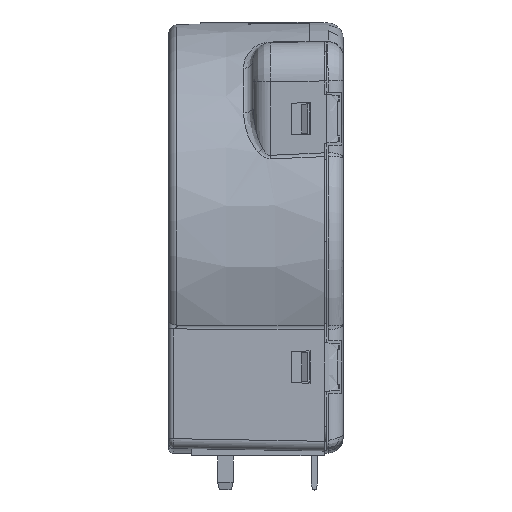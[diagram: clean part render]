
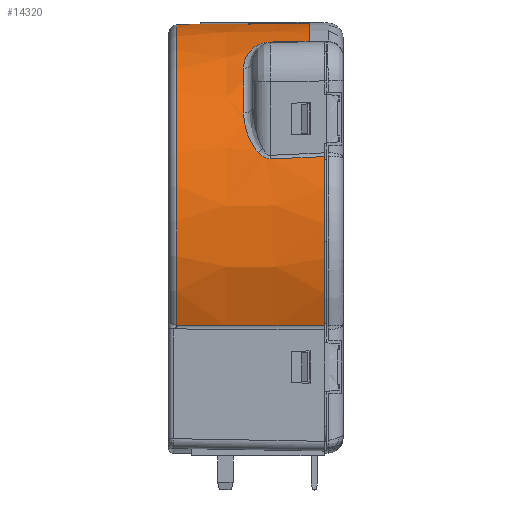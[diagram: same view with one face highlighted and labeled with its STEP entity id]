
A CAD part, left-side view. The second image highlights one B-rep face of the part: STEP entity #14320.
In plain terms, the highlighted conical face has half-angle 1 degrees and reference radius 22.509 mm.
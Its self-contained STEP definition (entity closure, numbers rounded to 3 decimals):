
#6770=CARTESIAN_POINT('',(-7.04,-7.92,
21.631));
#6780=VERTEX_POINT('',#6770);
#6810=CARTESIAN_POINT('',(1.649,-7.92,
0.876));
#6820=DIRECTION('',(0.,1.,0.));
#6830=DIRECTION('',(-1.,0.,0.));
#6840=AXIS2_PLACEMENT_3D('',#6810,#6820,#6830);
#6850=CIRCLE('',#6840,22.5);
#6860=CARTESIAN_POINT('',(10.325,-7.92,
21.635));
#6870=VERTEX_POINT('',#6860);
#6880=EDGE_CURVE('',#6780,#6870,#6850,.T.);
#10560=CARTESIAN_POINT('',(22.16,-6.37,
10.058));
#10570=VERTEX_POINT('',#10560);
#10600=CARTESIAN_POINT('',(1.649,-6.37,
0.876));
#10610=DIRECTION('',(0.,-1.,0.));
#10620=DIRECTION('',(-1.,0.,0.));
#10630=AXIS2_PLACEMENT_3D('',#10600,#10610,#10620);
#10640=CIRCLE('',#10630,22.473);
#10650=CARTESIAN_POINT('',(24.001,-6.37,
3.205));
#10660=VERTEX_POINT('',#10650);
#10670=EDGE_CURVE('',#10660,#10570,#10640,.T.);
#12060=CARTESIAN_POINT('',(23.96,-3.048,
3.026));
#12070=VERTEX_POINT('',#12060);
#12320=CARTESIAN_POINT('',(23.96,-3.048,
3.031));
#12330=VERTEX_POINT('',#12320);
#12360=CARTESIAN_POINT('',(23.96,-3.048,
3.031));
#12370=DIRECTION('',(0.096,0.006,
-0.995));
#12380=VECTOR('',#12370,1.);
#12390=LINE('',#12360,#12380);
#12400=EDGE_CURVE('',#12330,#12070,#12390,.T.);
#12810=CARTESIAN_POINT('',(23.924,-0.17,
2.875));
#12820=CARTESIAN_POINT('',(23.955,1.479,
2.209));
#12830=CARTESIAN_POINT('',(23.956,3.129,
1.542));
#12840=CARTESIAN_POINT('',(23.927,4.779,
0.876));
#12850=B_SPLINE_CURVE_WITH_KNOTS('',3,(#12810,#12820,#12830,#12840),
.UNSPECIFIED.,.F.,.F.,(4,4),(0.,5.338),.UNSPECIFIED.);
#12860=CARTESIAN_POINT('',(23.924,-0.17,
2.875));
#12870=VERTEX_POINT('',#12860);
#12880=CARTESIAN_POINT('',(23.927,4.779,
0.876));
#12890=VERTEX_POINT('',#12880);
#12900=EDGE_CURVE('',#12870,#12890,#12850,.T.);
#13210=CARTESIAN_POINT('',(23.96,-3.048,
3.026));
#13220=DIRECTION('',(-0.013,0.999,
-0.052));
#13230=VECTOR('',#13220,1.);
#13240=LINE('',#13210,#13230);
#13250=EDGE_CURVE('',#12070,#12870,#13240,.T.);
#13320=CARTESIAN_POINT('',(1.649,-8.42,
0.876));
#13330=DIRECTION('',(0.,-1.,0.));
#13340=DIRECTION('',(-1.,0.,0.));
#13350=AXIS2_PLACEMENT_3D('',#13320,#13330,#13340);
#13360=CONICAL_SURFACE('',#13350,22.509,0.017);
#13370=ORIENTED_EDGE('',*,*,#10670,.F.);
#13380=CARTESIAN_POINT('',(22.091,-2.389,
10.042));
#13390=DIRECTION('',(0.017,-1.,
0.004));
#13400=VECTOR('',#13390,1.);
#13410=LINE('',#13380,#13400);
#13420=CARTESIAN_POINT('',(22.091,-2.389,
10.042));
#13430=VERTEX_POINT('',#13420);
#13440=EDGE_CURVE('',#13430,#10570,#13410,.T.);
#13450=ORIENTED_EDGE('',*,*,#13440,.T.);
#13460=CARTESIAN_POINT('',(22.091,-2.389,
10.042));
#13470=CARTESIAN_POINT('',(22.087,-2.176,
10.041));
#13480=CARTESIAN_POINT('',(22.029,-1.751,
10.153));
#13490=CARTESIAN_POINT('',(21.806,-1.117,
10.609));
#13500=CARTESIAN_POINT('',(21.337,-0.403,
11.523));
#13510=CARTESIAN_POINT('',(20.54,0.184,
12.885));
#13520=CARTESIAN_POINT('',(19.803,0.363,
13.937));
#13530=CARTESIAN_POINT('',(19.409,0.363,
14.452));
#13540=B_SPLINE_CURVE_WITH_KNOTS('',3,(#13460,#13470,#13480,#13490,
#13500,#13510,#13520,#13530),.UNSPECIFIED.,.F.,.F.,(4,1,1,1,1,4),(0.,
0.087,0.179,0.366,0.682,
1.),.UNSPECIFIED.);
#13550=CARTESIAN_POINT('',(19.409,0.363,
14.452));
#13560=VERTEX_POINT('',#13550);
#13570=EDGE_CURVE('',#13430,#13560,#13540,.T.);
#13580=ORIENTED_EDGE('',*,*,#13570,.F.);
#13590=CARTESIAN_POINT('',(1.649,0.363,
0.876));
#13600=DIRECTION('',(0.,1.,0.));
#13610=DIRECTION('',(1.,-0.,0.));
#13620=AXIS2_PLACEMENT_3D('',#13590,#13600,#13610);
#13630=CIRCLE('',#13620,22.355);
#13640=CARTESIAN_POINT('',(14.806,0.363,
18.95));
#13650=VERTEX_POINT('',#13640);
#13660=EDGE_CURVE('',#13650,#13560,#13630,.T.);
#13670=ORIENTED_EDGE('',*,*,#13660,.T.);
#13680=CARTESIAN_POINT('',(14.806,0.363,
18.95));
#13690=CARTESIAN_POINT('',(14.13,0.363,
19.441));
#13700=CARTESIAN_POINT('',(13.065,0.157,
20.13));
#13710=CARTESIAN_POINT('',(11.679,-0.446,
20.881));
#13720=CARTESIAN_POINT('',(11.011,-0.888,
21.203));
#13730=CARTESIAN_POINT('',(10.715,-1.168,
21.339));
#13740=B_SPLINE_CURVE_WITH_KNOTS('',3,(#13680,#13690,#13700,#13710,
#13720,#13730),.UNSPECIFIED.,.F.,.F.,(4,1,1,4),(0.,0.496,
0.745,1.),.UNSPECIFIED.);
#13750=CARTESIAN_POINT('',(10.715,-1.168,
21.339));
#13760=VERTEX_POINT('',#13750);
#13770=EDGE_CURVE('',#13650,#13760,#13740,.T.);
#13780=ORIENTED_EDGE('',*,*,#13770,.F.);
#13790=CARTESIAN_POINT('',(10.715,-1.168,
21.339));
#13800=CARTESIAN_POINT('',(10.551,-1.323,
21.415));
#13810=CARTESIAN_POINT('',(10.317,-1.591,
21.52));
#13820=CARTESIAN_POINT('',(10.112,-2.041,
21.613));
#13830=CARTESIAN_POINT('',(10.078,-2.305,
21.631));
#13840=CARTESIAN_POINT('',(10.084,-2.437,
21.632));
#13850=B_SPLINE_CURVE_WITH_KNOTS('',3,(#13790,#13800,#13810,#13820,
#13830,#13840),.UNSPECIFIED.,.F.,.F.,(4,1,1,4),(0.,0.478,
0.733,1.),.UNSPECIFIED.);
#13860=CARTESIAN_POINT('',(10.084,-2.437,
21.632));
#13870=VERTEX_POINT('',#13860);
#13880=EDGE_CURVE('',#13760,#13870,#13850,.T.);
#13890=ORIENTED_EDGE('',*,*,#13880,.F.);
#13900=CARTESIAN_POINT('',(10.084,-2.437,
21.632));
#13910=DIRECTION('',(0.044,-0.999,
0.001));
#13920=VECTOR('',#13910,1.);
#13930=LINE('',#13900,#13920);
#13940=EDGE_CURVE('',#13870,#6870,#13930,.T.);
#13950=ORIENTED_EDGE('',*,*,#13940,.F.);
#13960=ORIENTED_EDGE('',*,*,#6880,.T.);
#13970=CARTESIAN_POINT('',(658438.791,-1749.46,
37819.373));
#13980=DIRECTION('',(-0.057,0.018,
0.998));
#13990=DIRECTION('',(0.998,0.,
0.057));
#14000=AXIS2_PLACEMENT_3D('',#13970,#13980,#13990);
#14010=CIRCLE('',#14000,659532.117);
#14020=CARTESIAN_POINT('',(-6.984,7.23,
21.367));
#14030=VERTEX_POINT('',#14020);
#14040=EDGE_CURVE('',#14030,#6780,#14010,.T.);
#14050=ORIENTED_EDGE('',*,*,#14040,.T.);
#14060=CARTESIAN_POINT('',(1.649,7.23,
0.876));
#14070=DIRECTION('',(0.,-1.,0.));
#14080=DIRECTION('',(-1.,0.,0.));
#14090=AXIS2_PLACEMENT_3D('',#14060,#14070,#14080);
#14100=CIRCLE('',#14090,22.236);
#14110=CARTESIAN_POINT('',(23.884,7.23,
0.876));
#14120=VERTEX_POINT('',#14110);
#14130=EDGE_CURVE('',#14120,#14030,#14100,.T.);
#14140=ORIENTED_EDGE('',*,*,#14130,.T.);
#14150=CARTESIAN_POINT('',(24.157,-8.42,
0.876));
#14160=DIRECTION('',(0.017,-1.,
0.));
#14170=VECTOR('',#14160,1289.72);
#14180=LINE('',#14150,#14170);
#14190=EDGE_CURVE('',#14120,#12890,#14180,.T.);
#14200=ORIENTED_EDGE('',*,*,#14190,.F.);
#14210=ORIENTED_EDGE('',*,*,#12900,.T.);
#14220=ORIENTED_EDGE('',*,*,#13250,.T.);
#14230=ORIENTED_EDGE('',*,*,#12400,.T.);
#14240=CARTESIAN_POINT('',(24.001,-6.37,
3.205));
#14250=DIRECTION('',(-0.012,0.999,
-0.052));
#14260=VECTOR('',#14250,1.);
#14270=LINE('',#14240,#14260);
#14280=EDGE_CURVE('',#10660,#12330,#14270,.T.);
#14290=ORIENTED_EDGE('',*,*,#14280,.T.);
#14300=EDGE_LOOP('',(#14290,#14230,#14220,#14210,#14200,#14140,#14050,
#13960,#13950,#13890,#13780,#13670,#13580,#13450,#13370));
#14310=FACE_OUTER_BOUND('',#14300,.T.);
#14320=ADVANCED_FACE('',(#14310),#13360,.T.);
